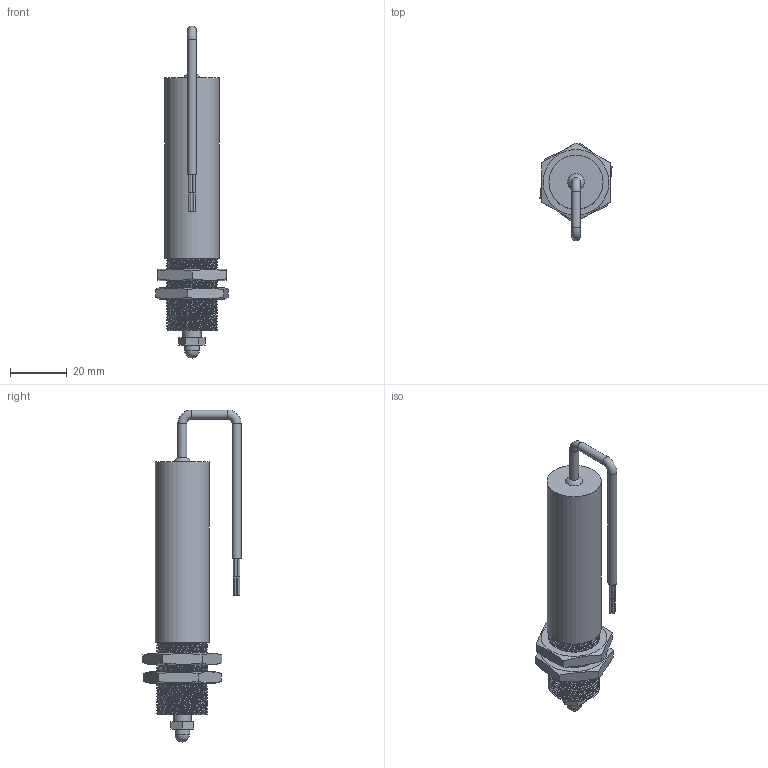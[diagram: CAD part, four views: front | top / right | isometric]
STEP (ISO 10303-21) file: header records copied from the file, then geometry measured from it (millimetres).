
FILE_DESCRIPTION(/* description */ ('ILPS-18S-013-A-00-YY-A SW'),/* implementation_level */ '2;1');
FILE_NAME(/* name */ 'ILPS-18S-013-A-00-YY-A SW.stp',/* time_stamp */ '2026-09-01T08:31:29-04:00',/* author */ ('Cameron'),/* organization */ ('HGSI'),/* preprocessor_version */ 'ST-DEVELOPER v20.1',/* originating_system */ 'Autodesk Inventor 2027',/* authorisation */ '');
FILE_SCHEMA (('AUTOMOTIVE_DESIGN { 1 0 10303 214 3 1 1 }'));
Length unit declared in the file: inch
Products named in the file (5): ILPS-18S-013-A-00-YY-A SW; ILPS-18S-013 Spoiler; Hex Nut; #12360; ILPS-18S-013-A-00-YY-A Body SW
Assembly tree (5 placements, depth 2):
  ILPS-18S-013-A-00-YY-A SW
    ILPS-18S-013 Spoiler
    Hex Nut  x2
    #12360
    ILPS-18S-013-A-00-YY-A Body SW
Bounding box: 25.42 x 34.49 x 116.77 mm (x, y, z)
Volume: 26936.6 mm3; surface area: 13514.1 mm2
Topology: 7 solids, 7 shells, 139 faces, 335 edges, 234 vertices
Faces by surface type: cylinder 74, plane 46, bspline 12, cone 4, torus 2, sphere 1
Full cylindrical faces by diameter (mm): 0.635 x4, 0.762 x4, 1.905 x1, 2.845 x3, 3.175 x4, 5.08 x1, 6.35 x2, 16.891 x24, 18 x25, 19.05 x1
Entity records: 12339 total; most frequent: CARTESIAN_POINT 9252, ORIENTED_EDGE 600, DIRECTION 471, EDGE_CURVE 300, VERTEX_POINT 198, AXIS2_PLACEMENT_3D 184, EDGE_LOOP 146, B_SPLINE_CURVE_WITH_KNOTS 128
